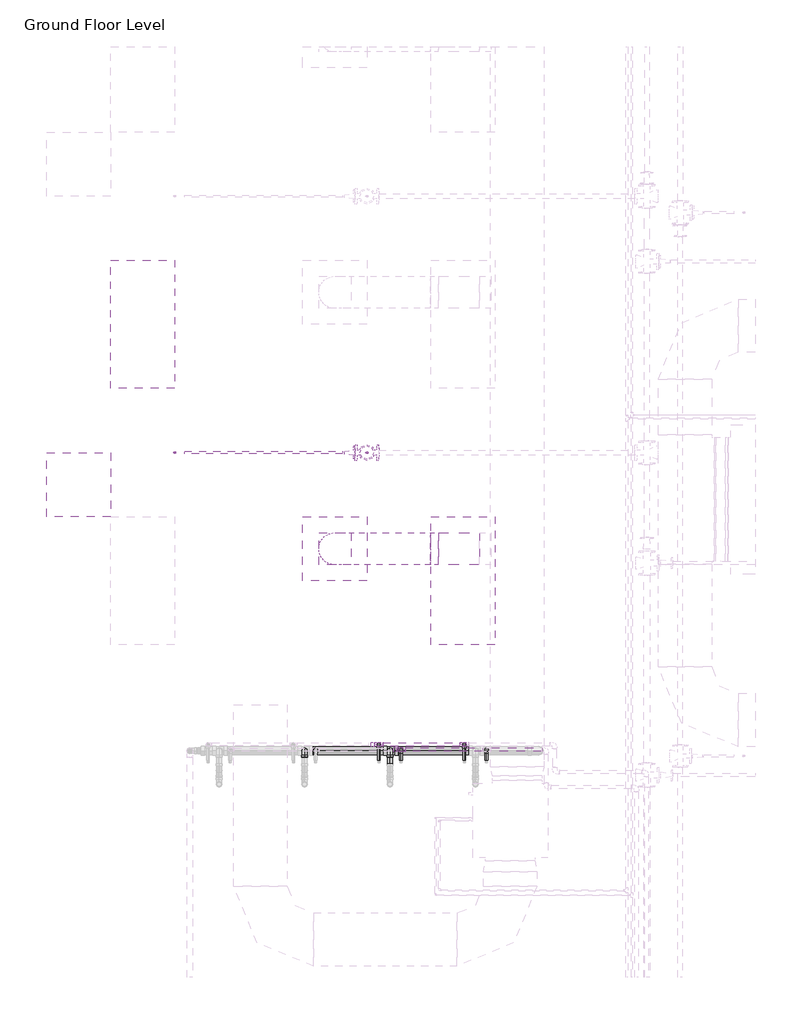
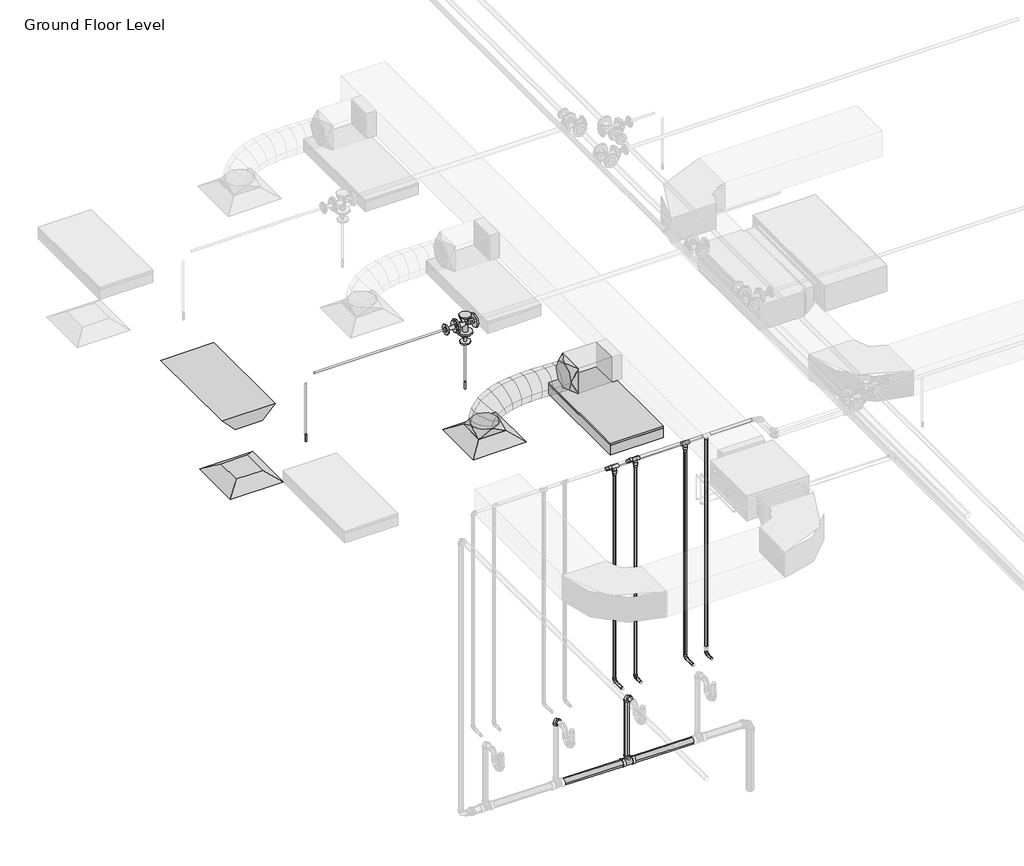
# One storey, part 24 of 74: 18 pipe fittings, 18 pipe segments, 2 air terminals, 2 duct fittings, 2 duct segments, 2 fire suppression terminals, 2 light fixtures.
"""IFC4 building model written with IfcOpenShell, lengths in millimetres."""

from ifc_helpers import new_model, si_unit, point, frame, frame_2d, origin, place, context, project, spatial, polyline, circle_curve, ellipse_curve, trimmed, segment, composite_curve, outline, extrude, transform, mapped, element, save
from ifc_brep_helpers import plane_surface, cylinder_surface, advanced_brep
from components import m_return_diffuser_600_x_600_face_300_x_300_connection_ff221211, m_rectangular_to_round_transition_angle_45_degree_641efff0, m_sprinkler_dry_pendent_hosted_15_mm_dry_pendent_9bda8e11, m_emergency_recessed_lighting_fixture_600x1200_277_5b10b25d, m_troffer_light_parabolic_rectangular1_0600x1200mm_4_lamp_86473d4a, m_bend_pvc_sch_40_dwv_standard_1e7bdcc1, m_bend_pvc_sch_40_dwv_standard_b3f66ba9, m_reducer_flanged_cs_class_150_standard_dc68ad9d, m_tee_reducing_sanitary_pvc_sch_40_dwv_standard_21d2848c, m_tee_round_base_flanged_cs_class_150_standard_ab36f383, standard_b266ab3f, standard_72b35c3b, standard_e954f56a, standard_e5aa6446

model = new_model("IFC4")

# Units and contexts
model_context = context("Model", 3, world=origin())
ifc_project = project(units=[si_unit("LENGTHUNIT", "METRE", prefix="MILLI")], contexts=[model_context])

# Site, building, storey
site = spatial("IfcSite", under=ifc_project)
building = spatial("IfcBuilding", under=site)
storey = spatial("IfcBuildingStorey", under=building, Name="Ground Floor Level", Elevation=900.0)

# Air terminals
placement = place(None, origin())
m_return_diffuser_600_x_600_face_300_x_300_connection_shape = m_return_diffuser_600_x_600_face_300_x_300_connection_ff221211(model_context)
element("IfcAirTerminal", 1, ObjectType="M_Return Diffuser : 600 x 600 Face 300 x 300 Connection", at=placement, inside=storey, context=model_context, shape_type="MappedRepresentation", body=[
    mapped(m_return_diffuser_600_x_600_face_300_x_300_connection_shape, transform((362.7672395, -21364.7846466, 3650.0), x_axis=(1.0, 0.0, 0.0), y_axis=(0.0, 1.0, 0.0), z_axis=(0.0, 0.0, 1.0))),
])
element("IfcAirTerminal", 2, ObjectType="M_Supply Diffuser : 600 x 600 Face 300 x 300 Connection", at=placement, inside=storey, context=model_context, shape_type="MappedRepresentation", body=[
    mapped(m_return_diffuser_600_x_600_face_300_x_300_connection_shape, transform((2762.7672395, -21964.7846466, 3650.0), x_axis=(1.0, 0.0, 0.0), y_axis=(0.0, 1.0, 0.0), z_axis=(0.0, 0.0, 1.0))),
])

# Duct fittings
m_rectangular_to_round_transition_angle_45_degree_shape = m_rectangular_to_round_transition_angle_45_degree_641efff0(model_context)
element("IfcDuctFitting", 3, ObjectType="M_Rectangular to Round Transition - Angle : 45 Degree", at=placement, inside=storey, context=model_context, shape_type="MappedRepresentation", body=[
    mapped(m_rectangular_to_round_transition_angle_45_degree_shape, transform((2762.7672395, -21964.7846466, 3751.6), x_axis=(0.0, 0.0, 1.0), y_axis=(-1.0, 0.0, 0.0), z_axis=(0.0, -1.0, 0.0))),
])
element("IfcDuctFitting", 4, ObjectType="M_Rectangular to Round Transition - Angle : 45 Degree", at=placement, inside=storey, context=model_context, shape_type="MappedRepresentation", body=[
    mapped(m_rectangular_to_round_transition_angle_45_degree_shape, transform((3732.9512129, -21964.7846466, 4057.1519579), x_axis=(-1.0, 0.0, 0.0), y_axis=(0.0, -1.0, 0.0), z_axis=(0.0, 0.0, 1.0))),
])

# Duct segments
element("IfcDuctSegment", 5, ObjectType="Flex - Round", at=placement, inside=storey, context=model_context, shape_type="AdvancedBrep", body=[
    advanced_brep(
    [(2912.7672395, -21964.7846466, 3826.6), (2762.7672395, -22114.7846466, 3826.6), (2612.7672395, -21964.7846466, 3826.6), (2762.7672395, -21814.7846466, 3826.6), (2912.7672395, -21964.7846466, 3832.8904143), (2762.7672395, -22114.7846466, 3856.8494149), (2612.7672395, -21964.7846466, 3880.8084155), (2762.7672395, -21814.7846466, 3856.8494149), (2914.0859082, -21964.7846466, 3836.9129923), (2779.5128239, -22114.7846466, 3907.9315565), (2644.9397396, -21964.7846466, 3978.9501208), (2779.5128239, -21814.7846466, 3907.9315565), (2928.1338147, -21964.7846466, 3855.2244817), (2826.2856906, -22114.7846466, 3968.9001322), (2724.4375665, -21964.7846466, 4082.5757828), (2826.2856906, -21814.7846466, 3968.9001322), (2960.075367, -21964.7846466, 3874.5779986), (2897.8900097, -22114.7846466, 4012.2854816), (2835.7046525, -21964.7846466, 4149.9929645), (2897.8900097, -21814.7846466, 4012.2854816), (3023.3471395, -21964.7846466, 3894.3985509), (2989.1299517, -22114.7846466, 4040.8673589), (2954.9127638, -21964.7846466, 4187.3361668), (2989.1299517, -21814.7846466, 4040.8673589), (3111.2174774, -21964.7846466, 3908.1662907), (3094.8096865, -22114.7846466, 4057.4255186), (3078.4018957, -21964.7846466, 4206.6847465), (3094.8096865, -21814.7846466, 4057.4255186), (3215.0370803, -21964.7846466, 3914.773779), (3209.7333846, -22114.7846466, 4064.7397152), (3204.4296888, -21964.7846466, 4214.7056514), (3209.7333846, -21814.7846466, 4064.7397152), (3327.4369923, -21964.7846466, 3915.576814), (3328.705216, -22114.7846466, 4065.589703), (3329.9734397, -21964.7846466, 4215.6025919), (3328.705216, -21814.7846466, 4065.589703), (3442.2113611, -21964.7846466, 3912.815715), (3446.529351, -22114.7846466, 4062.7552364), (3450.847341, -21964.7846466, 4212.6947579), (3446.529351, -21814.7846466, 4062.7552364), (3554.0566752, -21964.7846466, 3909.0643159), (3558.0099599, -22114.7846466, 4059.0160699), (3561.9632447, -21964.7846466, 4208.9678239), (3558.0099599, -21814.7846466, 4059.0160699), (3657.9512129, -21964.7846466, 3907.1519579), (3657.9512129, -21814.7846466, 4057.1519579), (3657.9512129, -21964.7846466, 4207.1519579), (3657.9512129, -22114.7846466, 4057.1519579), (3653.7148319, -21964.7846466, 3907.1519579), (3655.1538878, -22114.7846466, 4057.1519579), (3656.5929436, -21964.7846466, 4207.1519579), (3655.1538878, -21814.7846466, 4057.1519579)],
    [
        (0, 1, circle_curve(frame((2762.7672395, -21964.7846466, 3826.6), z_axis=(0.0, 0.0, -1.0), x_axis=(1.0, 0.0, 0.0)), 150.0)),
        (1, 2, circle_curve(frame((2762.7672395, -21964.7846466, 3826.6), z_axis=(0.0, 0.0, -1.0), x_axis=(1.0, 0.0, 0.0)), 150.0)),
        (2, 3, circle_curve(frame((2762.7672395, -21964.7846466, 3826.6), z_axis=(0.0, 0.0, -1.0), x_axis=(1.0, 0.0, 0.0)), 150.0)),
        (3, 0, circle_curve(frame((2762.7672395, -21964.7846466, 3826.6), z_axis=(0.0, 0.0, -1.0), x_axis=(1.0, 0.0, 0.0)), 150.0)),
        (0, 4),
        (4, 5, ellipse_curve(frame((2762.7672395, -21964.7846466, 3856.8494149), z_axis=(-0.1577273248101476, 0.0, -0.9874827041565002), x_axis=(0.9874827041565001, 0.0, -0.1577273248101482)), 151.9013947, 150.0)),
        (5, 1),
        (5, 6, ellipse_curve(frame((2762.7672395, -21964.7846466, 3856.8494149), z_axis=(-0.1577273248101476, 0.0, -0.9874827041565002), x_axis=(0.9874827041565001, 0.0, -0.1577273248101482)), 151.9013947, 150.0)),
        (6, 2),
        (6, 7, ellipse_curve(frame((2762.7672395, -21964.7846466, 3856.8494149), z_axis=(-0.1577273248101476, 0.0, -0.9874827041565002), x_axis=(0.9874827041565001, 0.0, -0.1577273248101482)), 151.9013947, 150.0)),
        (7, 3),
        (7, 4, ellipse_curve(frame((2762.7672395, -21964.7846466, 3856.8494149), z_axis=(-0.1577273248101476, 0.0, -0.9874827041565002), x_axis=(0.9874827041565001, 0.0, -0.1577273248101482)), 151.9013947, 150.0)),
        (4, 8),
        (8, 9, ellipse_curve(frame((2779.5128239, -21964.7846466, 3907.9315565), z_axis=(-0.46672716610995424, 0.0, -0.8844013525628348), x_axis=(0.8844013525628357, 0.0, -0.466727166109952)), 152.162911, 150.0)),
        (9, 5),
        (9, 10, ellipse_curve(frame((2779.5128239, -21964.7846466, 3907.9315565), z_axis=(-0.46672716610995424, 0.0, -0.8844013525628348), x_axis=(0.8844013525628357, 0.0, -0.466727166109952)), 152.162911, 150.0)),
        (10, 6),
        (10, 11, ellipse_curve(frame((2779.5128239, -21964.7846466, 3907.9315565), z_axis=(-0.46672716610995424, 0.0, -0.8844013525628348), x_axis=(0.8844013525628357, 0.0, -0.466727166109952)), 152.162911, 150.0)),
        (11, 7),
        (11, 8, ellipse_curve(frame((2779.5128239, -21964.7846466, 3907.9315565), z_axis=(-0.46672716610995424, 0.0, -0.8844013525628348), x_axis=(0.8844013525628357, 0.0, -0.466727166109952)), 152.162911, 150.0)),
        (8, 12),
        (12, 13, ellipse_curve(frame((2826.2856906, -21964.7846466, 3968.9001322), z_axis=(-0.744790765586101, 0.0, -0.6672980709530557), x_axis=(0.6672980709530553, 0.0, -0.7447907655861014)), 152.6276316, 150.0)),
        (13, 9),
        (13, 14, ellipse_curve(frame((2826.2856906, -21964.7846466, 3968.9001322), z_axis=(-0.744790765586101, 0.0, -0.6672980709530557), x_axis=(0.6672980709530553, 0.0, -0.7447907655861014)), 152.6276316, 150.0)),
        (14, 10),
        (14, 15, ellipse_curve(frame((2826.2856906, -21964.7846466, 3968.9001322), z_axis=(-0.744790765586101, 0.0, -0.6672980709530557), x_axis=(0.6672980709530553, 0.0, -0.7447907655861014)), 152.6276316, 150.0)),
        (15, 11),
        (15, 12, ellipse_curve(frame((2826.2856906, -21964.7846466, 3968.9001322), z_axis=(-0.744790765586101, 0.0, -0.6672980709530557), x_axis=(0.6672980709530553, 0.0, -0.7447907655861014)), 152.6276316, 150.0)),
        (12, 16),
        (16, 17, ellipse_curve(frame((2897.8900097, -21964.7846466, 4012.2854816), z_axis=(-0.9113833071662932, 0.0, -0.41155858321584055), x_axis=(0.41155858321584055, 0.0, -0.9113833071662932)), 151.0972187, 150.0)),
        (17, 13),
        (17, 18, ellipse_curve(frame((2897.8900097, -21964.7846466, 4012.2854816), z_axis=(-0.9113833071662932, 0.0, -0.41155858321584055), x_axis=(0.41155858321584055, 0.0, -0.9113833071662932)), 151.0972187, 150.0)),
        (18, 14),
        (18, 19, ellipse_curve(frame((2897.8900097, -21964.7846466, 4012.2854816), z_axis=(-0.9113833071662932, 0.0, -0.41155858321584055), x_axis=(0.41155858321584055, 0.0, -0.9113833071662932)), 151.0972187, 150.0)),
        (19, 15),
        (19, 16, ellipse_curve(frame((2897.8900097, -21964.7846466, 4012.2854816), z_axis=(-0.9113833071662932, 0.0, -0.41155858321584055), x_axis=(0.41155858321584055, 0.0, -0.9113833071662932)), 151.0972187, 150.0)),
        (16, 20),
        (20, 21, ellipse_curve(frame((2989.1299517, -21964.7846466, 4040.8673589), z_axis=(-0.9737806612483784, 0.0, -0.22748895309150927), x_axis=(0.22748895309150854, 0.0, -0.9737806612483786)), 150.4125249, 150.0)),
        (21, 17),
        (21, 22, ellipse_curve(frame((2989.1299517, -21964.7846466, 4040.8673589), z_axis=(-0.9737806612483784, 0.0, -0.22748895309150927), x_axis=(0.22748895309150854, 0.0, -0.9737806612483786)), 150.4125249, 150.0)),
        (22, 18),
        (22, 23, ellipse_curve(frame((2989.1299517, -21964.7846466, 4040.8673589), z_axis=(-0.9737806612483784, 0.0, -0.22748895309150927), x_axis=(0.22748895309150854, 0.0, -0.9737806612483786)), 150.4125249, 150.0)),
        (23, 19),
        (23, 20, ellipse_curve(frame((2989.1299517, -21964.7846466, 4040.8673589), z_axis=(-0.9737806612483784, 0.0, -0.22748895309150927), x_axis=(0.22748895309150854, 0.0, -0.9737806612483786)), 150.4125249, 150.0)),
        (20, 24),
        (24, 25, ellipse_curve(frame((3094.8096865, -21964.7846466, 4057.4255186), z_axis=(-0.9940121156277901, 0.0, -0.109269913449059), x_axis=(0.10926991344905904, 0.0, -0.9940121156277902)), 150.1583588, 150.0)),
        (25, 21),
        (25, 26, ellipse_curve(frame((3094.8096865, -21964.7846466, 4057.4255186), z_axis=(-0.9940121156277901, 0.0, -0.109269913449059), x_axis=(0.10926991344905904, 0.0, -0.9940121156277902)), 150.1583588, 150.0)),
        (26, 22),
        (26, 27, ellipse_curve(frame((3094.8096865, -21964.7846466, 4057.4255186), z_axis=(-0.9940121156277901, 0.0, -0.109269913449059), x_axis=(0.10926991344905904, 0.0, -0.9940121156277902)), 150.1583588, 150.0)),
        (27, 23),
        (27, 24, ellipse_curve(frame((3094.8096865, -21964.7846466, 4057.4255186), z_axis=(-0.9940121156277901, 0.0, -0.109269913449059), x_axis=(0.10926991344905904, 0.0, -0.9940121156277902)), 150.1583588, 150.0)),
        (24, 28),
        (28, 29, ellipse_curve(frame((3209.7333846, -21964.7846466, 4064.7397152), z_axis=(-0.9993752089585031, 0.0, -0.035343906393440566), x_axis=(0.035343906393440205, 0.0, -0.9993752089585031)), 150.0596922, 150.0)),
        (29, 25),
        (29, 30, ellipse_curve(frame((3209.7333846, -21964.7846466, 4064.7397152), z_axis=(-0.9993752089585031, 0.0, -0.035343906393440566), x_axis=(0.035343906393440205, 0.0, -0.9993752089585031)), 150.0596922, 150.0)),
        (30, 26),
        (30, 31, ellipse_curve(frame((3209.7333846, -21964.7846466, 4064.7397152), z_axis=(-0.9993752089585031, 0.0, -0.035343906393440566), x_axis=(0.035343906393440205, 0.0, -0.9993752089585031)), 150.0596922, 150.0)),
        (31, 27),
        (31, 28, ellipse_curve(frame((3209.7333846, -21964.7846466, 4064.7397152), z_axis=(-0.9993752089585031, 0.0, -0.035343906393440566), x_axis=(0.035343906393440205, 0.0, -0.9993752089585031)), 150.0596922, 150.0)),
        (28, 32),
        (32, 33, ellipse_curve(frame((3328.705216, -21964.7846466, 4065.589703), z_axis=(-0.9999642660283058, 0.0, 0.008453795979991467), x_axis=(-0.00845379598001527, 0.0, -0.9999642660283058)), 150.0182497, 150.0)),
        (33, 29),
        (33, 34, ellipse_curve(frame((3328.705216, -21964.7846466, 4065.589703), z_axis=(-0.9999642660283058, 0.0, 0.008453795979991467), x_axis=(-0.00845379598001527, 0.0, -0.9999642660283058)), 150.0182497, 150.0)),
        (34, 30),
        (34, 35, ellipse_curve(frame((3328.705216, -21964.7846466, 4065.589703), z_axis=(-0.9999642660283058, 0.0, 0.008453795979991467), x_axis=(-0.00845379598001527, 0.0, -0.9999642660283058)), 150.0182497, 150.0)),
        (35, 31),
        (35, 32, ellipse_curve(frame((3328.705216, -21964.7846466, 4065.589703), z_axis=(-0.9999642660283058, 0.0, 0.008453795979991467), x_axis=(-0.00845379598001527, 0.0, -0.9999642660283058)), 150.0182497, 150.0)),
        (32, 36),
        (36, 37, ellipse_curve(frame((3446.529351, -21964.7846466, 4062.7552364), z_axis=(-0.9995855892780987, 0.0, 0.028786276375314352), x_axis=(-0.028786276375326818, 0.0, -0.9995855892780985)), 150.0016838, 150.0)),
        (37, 33),
        (37, 38, ellipse_curve(frame((3446.529351, -21964.7846466, 4062.7552364), z_axis=(-0.9995855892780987, 0.0, 0.028786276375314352), x_axis=(-0.028786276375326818, 0.0, -0.9995855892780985)), 150.0016838, 150.0)),
        (38, 34),
        (38, 39, ellipse_curve(frame((3446.529351, -21964.7846466, 4062.7552364), z_axis=(-0.9995855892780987, 0.0, 0.028786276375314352), x_axis=(-0.028786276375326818, 0.0, -0.9995855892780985)), 150.0016838, 150.0)),
        (39, 35),
        (39, 36, ellipse_curve(frame((3446.529351, -21964.7846466, 4062.7552364), z_axis=(-0.9995855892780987, 0.0, 0.028786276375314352), x_axis=(-0.028786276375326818, 0.0, -0.9995855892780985)), 150.0016838, 150.0)),
        (36, 40),
        (40, 41, ellipse_curve(frame((3558.0099599, -21964.7846466, 4059.0160699), z_axis=(-0.999652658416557, 0.0, 0.026354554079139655), x_axis=(0.026354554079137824, 0.0, 0.9996526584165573)), 150.0038566, 150.0)),
        (41, 37),
        (41, 42, ellipse_curve(frame((3558.0099599, -21964.7846466, 4059.0160699), z_axis=(-0.999652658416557, 0.0, 0.026354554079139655), x_axis=(0.026354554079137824, 0.0, 0.9996526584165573)), 150.0038566, 150.0)),
        (42, 38),
        (42, 43, ellipse_curve(frame((3558.0099599, -21964.7846466, 4059.0160699), z_axis=(-0.999652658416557, 0.0, 0.026354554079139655), x_axis=(0.026354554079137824, 0.0, 0.9996526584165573)), 150.0038566, 150.0)),
        (43, 39),
        (43, 40, ellipse_curve(frame((3558.0099599, -21964.7846466, 4059.0160699), z_axis=(-0.999652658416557, 0.0, 0.026354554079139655), x_axis=(0.026354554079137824, 0.0, 0.9996526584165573)), 150.0038566, 150.0)),
        (44, 45, circle_curve(frame((3657.9512129, -21964.7846466, 4057.1519579), z_axis=(1.0, 0.0, 0.0), x_axis=(0.0, 0.0, -1.0)), 150.0)),
        (45, 46, circle_curve(frame((3657.9512129, -21964.7846466, 4057.1519579), z_axis=(1.0, 0.0, 0.0), x_axis=(0.0, 0.0, -1.0)), 150.0)),
        (46, 47, circle_curve(frame((3657.9512129, -21964.7846466, 4057.1519579), z_axis=(1.0, 0.0, 0.0), x_axis=(0.0, 0.0, -1.0)), 150.0)),
        (47, 44, circle_curve(frame((3657.9512129, -21964.7846466, 4057.1519579), z_axis=(1.0, 0.0, 0.0), x_axis=(0.0, 0.0, -1.0)), 150.0)),
        (40, 48),
        (48, 49, ellipse_curve(frame((3655.1538878, -21964.7846466, 4057.1519579), z_axis=(-0.9999539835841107, 0.0, 0.009593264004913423), x_axis=(0.009593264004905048, 0.0, 0.9999539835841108)), 150.0069028, 150.0)),
        (49, 41),
        (49, 50, ellipse_curve(frame((3655.1538878, -21964.7846466, 4057.1519579), z_axis=(-0.9999539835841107, 0.0, 0.009593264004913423), x_axis=(0.009593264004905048, 0.0, 0.9999539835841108)), 150.0069028, 150.0)),
        (50, 42),
        (50, 51, ellipse_curve(frame((3655.1538878, -21964.7846466, 4057.1519579), z_axis=(-0.9999539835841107, 0.0, 0.009593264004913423), x_axis=(0.009593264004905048, 0.0, 0.9999539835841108)), 150.0069028, 150.0)),
        (51, 43),
        (51, 48, ellipse_curve(frame((3655.1538878, -21964.7846466, 4057.1519579), z_axis=(-0.9999539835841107, 0.0, 0.009593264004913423), x_axis=(0.009593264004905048, 0.0, 0.9999539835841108)), 150.0069028, 150.0)),
        (48, 44),
        (47, 49),
        (46, 50),
        (45, 51),
    ],
    [
        plane_surface(frame((2762.7672395, -22114.7846466, 3826.6), z_axis=(0.0, 0.0, -1.0), x_axis=(1.0, 0.0, 0.0))),
        cylinder_surface(frame((2762.7672395, -21964.7846466, 3826.6), z_axis=(0.0, 0.0, -1.0), x_axis=(1.0, 0.0, 0.0)), 150.0),
        cylinder_surface(frame((2762.7672395, -21964.7846466, 3856.8494149), z_axis=(-0.3115060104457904, 0.0, -0.9502441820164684), x_axis=(0.9502441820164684, 0.0, -0.3115060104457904)), 150.0),
        cylinder_surface(frame((2779.5128239, -21964.7846466, 3907.9315565), z_axis=(-0.6086797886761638, 0.0, -0.7934159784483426), x_axis=(0.7934159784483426, 0.0, -0.6086797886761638)), 150.0),
        cylinder_surface(frame((2826.2856906, -21964.7846466, 3968.9001322), z_axis=(-0.8552571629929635, 0.0, -0.5182038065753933), x_axis=(0.5182038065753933, 0.0, -0.8552571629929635)), 150.0),
        cylinder_surface(frame((2897.8900097, -21964.7846466, 4012.2854816), z_axis=(-0.9542731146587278, 0.0, -0.29893615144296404), x_axis=(0.29893615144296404, 0.0, -0.9542731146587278)), 150.0),
        cylinder_surface(frame((2989.1299517, -21964.7846466, 4040.8673589), z_axis=(-0.9879467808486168, 0.0, -0.15479392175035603), x_axis=(0.15479392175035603, 0.0, -0.9879467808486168)), 150.0),
        cylinder_surface(frame((3094.8096865, -21964.7846466, 4057.4255186), z_axis=(-0.997980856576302, 0.0, -0.06351543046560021), x_axis=(0.06351543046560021, 0.0, -0.997980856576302)), 150.0),
        cylinder_surface(frame((3209.7333846, -21964.7846466, 4064.7397152), z_axis=(-0.9999744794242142, 0.0, -0.007144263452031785), x_axis=(0.007144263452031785, 0.0, -0.9999744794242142)), 150.0),
        cylinder_surface(frame((3328.705216, -21964.7846466, 4065.589703), z_axis=(-0.9997107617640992, 0.0, 0.024049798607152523), x_axis=(-0.024049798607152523, 0.0, -0.9997107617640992)), 150.0),
        cylinder_surface(frame((3446.529351, -21964.7846466, 4062.7552364), z_axis=(-0.9994379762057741, 0.0, 0.03352210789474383), x_axis=(-0.03352210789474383, 0.0, -0.9994379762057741)), 150.0),
        plane_surface(frame((3657.9512129, -21964.7846466, 3907.1519579), z_axis=(1.0, 0.0, 0.0), x_axis=(0.0, 1.0, 0.0))),
        cylinder_surface(frame((3558.0099599, -21964.7846466, 4059.0160699), z_axis=(-0.9998159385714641, 0.0, 0.01918564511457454), x_axis=(-0.01918564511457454, 0.0, -0.9998159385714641)), 150.0),
        cylinder_surface(frame((3655.1538878, -21964.7846466, 4057.1519579), z_axis=(-1.0, 0.0, 0.0), x_axis=(0.0, 0.0, -1.0)), 150.0),
    ],
    [
        (0, [[1, 2, 3, 4]]),
        (1, [[-1, 5, 6, 7]]),
        (1, [[-2, -7, 8, 9]]),
        (1, [[-3, -9, 10, 11]]),
        (1, [[-4, -11, 12, -5]]),
        (2, [[-6, 13, 14, 15]]),
        (2, [[-8, -15, 16, 17]]),
        (2, [[-10, -17, 18, 19]]),
        (2, [[-12, -19, 20, -13]]),
        (3, [[-14, 21, 22, 23]]),
        (3, [[-16, -23, 24, 25]]),
        (3, [[-18, -25, 26, 27]]),
        (3, [[-20, -27, 28, -21]]),
        (4, [[-22, 29, 30, 31]]),
        (4, [[-24, -31, 32, 33]]),
        (4, [[-26, -33, 34, 35]]),
        (4, [[-28, -35, 36, -29]]),
        (5, [[-30, 37, 38, 39]]),
        (5, [[-32, -39, 40, 41]]),
        (5, [[-34, -41, 42, 43]]),
        (5, [[-36, -43, 44, -37]]),
        (6, [[-38, 45, 46, 47]]),
        (6, [[-40, -47, 48, 49]]),
        (6, [[-42, -49, 50, 51]]),
        (6, [[-44, -51, 52, -45]]),
        (7, [[-46, 53, 54, 55]]),
        (7, [[-48, -55, 56, 57]]),
        (7, [[-50, -57, 58, 59]]),
        (7, [[-52, -59, 60, -53]]),
        (8, [[-54, 61, 62, 63]]),
        (8, [[-56, -63, 64, 65]]),
        (8, [[-58, -65, 66, 67]]),
        (8, [[-60, -67, 68, -61]]),
        (9, [[-62, 69, 70, 71]]),
        (9, [[-64, -71, 72, 73]]),
        (9, [[-66, -73, 74, 75]]),
        (9, [[-68, -75, 76, -69]]),
        (10, [[-70, 77, 78, 79]]),
        (10, [[-72, -79, 80, 81]]),
        (10, [[-74, -81, 82, 83]]),
        (10, [[-76, -83, 84, -77]]),
        (11, [[85, 86, 87, 88]]),
        (12, [[-78, 89, 90, 91]]),
        (12, [[-80, -91, 92, 93]]),
        (12, [[-82, -93, 94, 95]]),
        (12, [[-84, -95, 96, -89]]),
        (13, [[-90, 97, -88, 98]]),
        (13, [[-92, -98, -87, 99]]),
        (13, [[-94, -99, -86, 100]]),
        (13, [[-96, -100, -85, -97]]),
    ],
),
])
element("IfcDuctSegment", 6, ObjectType="Radius Elbows / Taps", at=placement, inside=storey, context=model_context, shape_type="SweptSolid", body=[
    extrude(outline(polyline([(4117.5581832, -21814.7846466), (4117.5581832, -22114.7846466), (3732.9512129, -22114.7846466), (3732.9512129, -21814.7846466), (4117.5581832, -21814.7846466)])), frame((0.0, 0.0, 3907.1519579), z_axis=(0.0, 0.0, 1.0), x_axis=(1.0, 0.0, 0.0)), (0.0, 0.0, 1.0), 300.0),
])

# Fire suppression terminals
m_sprinkler_dry_pendent_hosted_15_mm_dry_pendent_shape = m_sprinkler_dry_pendent_hosted_15_mm_dry_pendent_9bda8e11(model_context)
element("IfcFireSuppressionTerminal", 7, ObjectType="M_Sprinkler - Dry - Pendent - Hosted : 15 mm Dry Pendent", at=placement, inside=storey, context=model_context, shape_type="MappedRepresentation", body=[
    mapped(m_sprinkler_dry_pendent_hosted_15_mm_dry_pendent_shape, transform((1262.7672395, -21064.7846466, 3650.0), x_axis=(1.0, 0.0, 0.0), y_axis=(0.0, -1.0, 0.0), z_axis=(0.0, 0.0, -1.0))),
])
element("IfcFireSuppressionTerminal", 8, ObjectType="M_Sprinkler - Dry - Pendent - Hosted : 15 mm Dry Pendent", at=placement, inside=storey, context=model_context, shape_type="MappedRepresentation", body=[
    mapped(m_sprinkler_dry_pendent_hosted_15_mm_dry_pendent_shape, transform((3062.7672395, -21064.7846466, 3650.0), x_axis=(1.0, 0.0, 0.0), y_axis=(0.0, -1.0, 0.0), z_axis=(0.0, 0.0, -1.0))),
])

# Light fixtures
m_emergency_recessed_lighting_fixture_600x1200_277_shape = m_emergency_recessed_lighting_fixture_600x1200_277_5b10b25d(model_context)
element("IfcLightFixture", 9, ObjectType="M_Emergency Recessed Lighting Fixture : 600x1200 - 277", at=placement, inside=storey, context=model_context, shape_type="MappedRepresentation", body=[
    mapped(m_emergency_recessed_lighting_fixture_600x1200_277_shape, transform((662.7672395, -20464.7846466, 3650.0), x_axis=(0.0, 1.0, 0.0), y_axis=(-1.0, 0.0, 0.0), z_axis=(0.0, 0.0, 1.0))),
])
m_troffer_light_parabolic_rectangular1_0600x1200mm_4_lamp_shape = m_troffer_light_parabolic_rectangular1_0600x1200mm_4_lamp_86473d4a(model_context)
element("IfcLightFixture", 10, ObjectType="M_Troffer Light - Parabolic Rectangular1 : 0600x1200mm(4 Lamp) - 277V 2", at=placement, inside=storey, context=model_context, shape_type="MappedRepresentation", body=[
    mapped(m_troffer_light_parabolic_rectangular1_0600x1200mm_4_lamp_shape, transform((3903.3013074, -22246.081145, 3650.0), x_axis=(0.0, 1.0, 0.0), y_axis=(-1.0, 0.0, 0.0), z_axis=(0.0, 0.0, 1.0))),
])

# Pipe fittings
m_bend_pvc_sch_40_dwv_standard_shape = m_bend_pvc_sch_40_dwv_standard_1e7bdcc1(model_context)
element("IfcPipeFitting", 11, ObjectType="M_Bend - PVC - Sch 40 - DWV : Standard", at=placement, inside=storey, context=model_context, shape_type="MappedRepresentation", body=[
    mapped(m_bend_pvc_sch_40_dwv_standard_shape, transform((2478.7498, -23854.2948449, 1508.2594199), x_axis=(0.0, 0.9999500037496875, -0.00999950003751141), y_axis=(0.0, -0.00999950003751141, -0.9999500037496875), z_axis=(-1.0, 0.0, 0.0))),
])
m_bend_pvc_sch_40_dwv_standard_2_shape = m_bend_pvc_sch_40_dwv_standard_b3f66ba9(model_context)
element("IfcPipeFitting", 12, ObjectType="M_Bend - PVC - Sch 40 - DWV : Standard", at=placement, inside=storey, context=model_context, shape_type="MappedRepresentation", body=[
    mapped(m_bend_pvc_sch_40_dwv_standard_2_shape, transform((3278.7498, -23854.294392, 1508.3087469), x_axis=(0.0, 0.9999578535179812, -0.009181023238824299), y_axis=(0.0, -0.009181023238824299, -0.9999578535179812), z_axis=(-1.0, 0.0, 0.0))),
])
m_reducer_flanged_cs_class_150_standard_shape = m_reducer_flanged_cs_class_150_standard_dc68ad9d(model_context)
element("IfcPipeFitting", 13, ObjectType="M_Reducer - Flanged - CS - Class 150 : Standard", at=placement, inside=storey, context=model_context, shape_type="MappedRepresentation", body=[
    mapped(m_reducer_flanged_cs_class_150_standard_shape, transform((2950.5086457, -21064.7846466, 4347.5), x_axis=(-1.0, 0.0, 0.0), y_axis=(0.0, 0.0, 1.0), z_axis=(0.0, 1.0, 0.0))),
])
element("IfcPipeFitting", 14, ObjectType="M_Reducer - Flanged - CS - Class 150 : Standard", at=placement, inside=storey, context=model_context, shape_type="MappedRepresentation", body=[
    mapped(m_reducer_flanged_cs_class_150_standard_shape, transform((3062.7672395, -21064.7846466, 4235.2414062), x_axis=(0.0, 0.0, -1.0), y_axis=(-1.0, 0.0, 0.0), z_axis=(0.0, 1.0, 0.0))),
])
m_tee_reducing_sanitary_pvc_sch_40_dwv_standard_shape = m_tee_reducing_sanitary_pvc_sch_40_dwv_standard_21d2848c(model_context)
element("IfcPipeFitting", 15, ObjectType="M_Tee Reducing Sanitary - PVC - Sch 40 - DWV : Standard", at=placement, inside=storey, context=model_context, shape_type="MappedRepresentation", body=[
    mapped(m_tee_reducing_sanitary_pvc_sch_40_dwv_standard_shape, transform((3278.7498, -23854.294392, 721.0632162), x_axis=(-0.9999500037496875, 0.0, 0.009999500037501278), y_axis=(-0.009999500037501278, 0.0, -0.9999500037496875), z_axis=(0.0, -1.0, 0.0))),
])
m_tee_round_base_flanged_cs_class_150_standard_shape = m_tee_round_base_flanged_cs_class_150_standard_ab36f383(model_context)
element("IfcPipeFitting", 16, ObjectType="M_Tee Round Base - Flanged - CS - Class 150 : Standard", at=placement, inside=storey, context=model_context, shape_type="MappedRepresentation", body=[
    mapped(m_tee_round_base_flanged_cs_class_150_standard_shape, transform((3062.7672395, -21064.7846466, 4347.5), x_axis=(-1.0, 0.0, 0.0), y_axis=(0.0, 0.0, 1.0), z_axis=(0.0, 1.0, 0.0))),
])
standard_shape = standard_b266ab3f(model_context)
element("IfcPipeFitting", 17, ObjectType="M_Elbow - CPVC - Sch 40 : Standard", at=placement, inside=storey, context=model_context, shape_type="MappedRepresentation", body=[
    mapped(standard_shape, transform((4183.0647206, -23844.7846466, 1690.0), x_axis=(0.0, 1.0, 0.0), y_axis=(0.0, 0.0, 1.0), z_axis=(1.0, 0.0, 0.0))),
])
element("IfcPipeFitting", 18, ObjectType="M_Elbow - CPVC - Sch 40 : Standard", at=placement, inside=storey, context=model_context, shape_type="MappedRepresentation", body=[
    mapped(standard_shape, transform((3383.0647206, -23844.7846466, 1690.0), x_axis=(0.0, 0.0, -1.0), y_axis=(0.0, -1.0, 0.0), z_axis=(-1.0, 0.0, 0.0))),
])
element("IfcPipeFitting", 19, ObjectType="M_Elbow - CPVC - Sch 40 : Standard", at=placement, inside=storey, context=model_context, shape_type="MappedRepresentation", body=[
    mapped(standard_shape, transform((3174.4348794, -23794.921633, 1690.0), x_axis=(0.0, 1.0, 0.0), y_axis=(0.0, 0.0, 1.0), z_axis=(1.0, 0.0, 0.0))),
])
element("IfcPipeFitting", 20, ObjectType="M_Elbow - CPVC - Sch 40 : Standard", at=placement, inside=storey, context=model_context, shape_type="MappedRepresentation", body=[
    mapped(standard_shape, transform((3974.4348794, -23794.921633, 1690.0), x_axis=(0.0, 1.0, 0.0), y_axis=(0.0, 0.0, 1.0), z_axis=(1.0, 0.0, 0.0))),
])
standard_2_shape = standard_72b35c3b(model_context)
element("IfcPipeFitting", 21, ObjectType="M_Tee - CPVC - Sch 40 : Standard", at=placement, inside=storey, context=model_context, shape_type="MappedRepresentation", body=[
    mapped(standard_2_shape, transform((3383.0647206, -23844.7846466, 4300.0), x_axis=(1.0, 0.0, 0.0), y_axis=(0.0, 0.0, 1.0), z_axis=(0.0, -1.0, 0.0))),
])
element("IfcPipeFitting", 22, ObjectType="M_Tee - CPVC - Sch 40 : Standard", at=placement, inside=storey, context=model_context, shape_type="MappedRepresentation", body=[
    mapped(standard_2_shape, transform((3174.4348794, -23794.921633, 4250.0), x_axis=(-1.0, 0.0, 0.0), y_axis=(0.0, 0.0, 1.0), z_axis=(0.0, 1.0, 0.0))),
])
element("IfcPipeFitting", 23, ObjectType="M_Tee - CPVC - Sch 40 : Standard", at=placement, inside=storey, context=model_context, shape_type="MappedRepresentation", body=[
    mapped(standard_2_shape, transform((3974.4348794, -23794.921633, 4250.0), x_axis=(-1.0, 0.0, 0.0), y_axis=(0.0, 0.0, 1.0), z_axis=(0.0, 1.0, 0.0))),
])
standard_3_shape = standard_e954f56a(model_context)
element("IfcPipeFitting", 24, ObjectType="M_Coupling Reducing - CPVC - Sch 40 : Standard", at=placement, inside=storey, context=model_context, shape_type="MappedRepresentation", body=[
    mapped(standard_3_shape, transform((3343.3645206, -23844.7846466, 4300.0), x_axis=(-1.0, 0.0, 0.0), y_axis=(0.0, -1.0, 0.0), z_axis=(0.0, 0.0, 1.0))),
])
element("IfcPipeFitting", 25, ObjectType="M_Coupling Reducing - CPVC - Sch 40 : Standard", at=placement, inside=storey, context=model_context, shape_type="MappedRepresentation", body=[
    mapped(standard_3_shape, transform((3383.0647206, -23844.7846466, 4260.2998), x_axis=(0.0, 0.0, -1.0), y_axis=(1.0, 0.0, 0.0), z_axis=(0.0, -1.0, 0.0))),
])
element("IfcPipeFitting", 26, ObjectType="M_Coupling Reducing - CPVC - Sch 40 : Standard", at=placement, inside=storey, context=model_context, shape_type="MappedRepresentation", body=[
    mapped(standard_3_shape, transform((3174.4348794, -23794.921633, 4210.2998), x_axis=(0.0, 0.0, -1.0), y_axis=(-1.0, 0.0, 0.0), z_axis=(0.0, 1.0, 0.0))),
])
element("IfcPipeFitting", 27, ObjectType="M_Coupling Reducing - CPVC - Sch 40 : Standard", at=placement, inside=storey, context=model_context, shape_type="MappedRepresentation", body=[
    mapped(standard_3_shape, transform((3974.4348794, -23794.921633, 4210.2998), x_axis=(0.0, 0.0, -1.0), y_axis=(-1.0, 0.0, 0.0), z_axis=(0.0, 1.0, 0.0))),
])
standard_4_shape = standard_e5aa6446(model_context)
element("IfcPipeFitting", 28, ObjectType="M_Coupling Reducing - CPVC - Sch 40 : Standard", at=placement, inside=storey, context=model_context, shape_type="MappedRepresentation", body=[
    mapped(standard_4_shape, transform((3134.7346794, -23794.921633, 4250.0), x_axis=(-1.0, 0.0, 0.0), y_axis=(0.0, -1.0, 0.0), z_axis=(0.0, 0.0, 1.0))),
])

# Pipe segments
element("IfcPipeSegment", 29, ObjectType="CPVC", at=placement, inside=storey, context=model_context, shape_type="SweptSolid", body=[
    extrude(outline(composite_curve([segment(trimmed(circle_curve(frame_2d((1690.0, 4183.0647206)), 13.335), [point((1690.0, 4196.3997206))], [point((1703.335, 4183.0647206))], False, "CARTESIAN"), True, "CONTINUOUS"), segment(trimmed(circle_curve(frame_2d((1690.0, 4183.0647206)), 13.335), [point((1703.335, 4183.0647206))], [point((1690.0, 4169.7297206))], False, "CARTESIAN"), True, "CONTINUOUS"), segment(trimmed(circle_curve(frame_2d((1690.0, 4183.0647206)), 13.335), [point((1690.0, 4169.7297206))], [point((1676.665, 4183.0647206))], False, "CARTESIAN"), True, "CONTINUOUS"), segment(trimmed(circle_curve(frame_2d((1690.0, 4183.0647206)), 13.335), [point((1676.665, 4183.0647206))], [point((1690.0, 4196.3997206))], False, "CARTESIAN"), True, "CONTINUOUS")], self_intersect=False)), frame((0.0, -23944.7846466, 0.0), z_axis=(0.0, 1.0, 0.0), x_axis=(0.0, 0.0, 1.0)), (0.0, 0.0, 1.0), 64.67495),
])
element("IfcPipeSegment", 30, ObjectType="CPVC", at=placement, inside=storey, context=model_context, shape_type="SweptSolid", body=[
    extrude(outline(composite_curve([segment(trimmed(circle_curve(frame_2d((-23844.7846466, 4300.0)), 16.7005), [point((-23861.4851466, 4300.0))], [point((-23844.7846466, 4316.7005))], False, "CARTESIAN"), True, "CONTINUOUS"), segment(trimmed(circle_curve(frame_2d((-23844.7846466, 4300.0)), 16.7005), [point((-23844.7846466, 4316.7005))], [point((-23828.0841466, 4300.0))], False, "CARTESIAN"), True, "CONTINUOUS"), segment(trimmed(circle_curve(frame_2d((-23844.7846466, 4300.0)), 16.7005), [point((-23828.0841466, 4300.0))], [point((-23844.7846466, 4283.2995))], False, "CARTESIAN"), True, "CONTINUOUS"), segment(trimmed(circle_curve(frame_2d((-23844.7846466, 4300.0)), 16.7005), [point((-23844.7846466, 4283.2995))], [point((-23861.4851466, 4300.0))], False, "CARTESIAN"), True, "CONTINUOUS")], self_intersect=False)), frame((4222.7649206, 0.0, 0.0), z_axis=(1.0, 0.0, 0.0), x_axis=(0.0, 1.0, 0.0)), (0.0, 0.0, 1.0), 477.03725),
])
element("IfcPipeSegment", 31, ObjectType="CPVC", at=placement, inside=storey, context=model_context, shape_type="SweptSolid", body=[
    extrude(outline(composite_curve([segment(trimmed(circle_curve(frame_2d((4183.0647206, -23844.7846466)), 16.7005), [point((4166.3642206, -23844.7846466))], [point((4183.0647206, -23828.0841466))], False, "CARTESIAN"), True, "CONTINUOUS"), segment(trimmed(circle_curve(frame_2d((4183.0647206, -23844.7846466)), 16.7005), [point((4183.0647206, -23828.0841466))], [point((4199.7652206, -23844.7846466))], False, "CARTESIAN"), True, "CONTINUOUS"), segment(trimmed(circle_curve(frame_2d((4183.0647206, -23844.7846466)), 16.7005), [point((4199.7652206, -23844.7846466))], [point((4183.0647206, -23861.4851466))], False, "CARTESIAN"), True, "CONTINUOUS"), segment(trimmed(circle_curve(frame_2d((4183.0647206, -23844.7846466)), 16.7005), [point((4183.0647206, -23861.4851466))], [point((4166.3642206, -23844.7846466))], False, "CARTESIAN"), True, "CONTINUOUS")], self_intersect=False)), frame((0.0, 0.0, 1782.47505), z_axis=(0.0, 0.0, 1.0), x_axis=(1.0, 0.0, 0.0)), (0.0, 0.0, 1.0), 2477.82475),
])
element("IfcPipeSegment", 32, ObjectType="CPVC", at=placement, inside=storey, context=model_context, shape_type="SweptSolid", body=[
    extrude(outline(composite_curve([segment(trimmed(circle_curve(frame_2d((1690.0, 3383.0647206)), 13.335), [point((1690.0, 3396.3997206))], [point((1703.335, 3383.0647206))], False, "CARTESIAN"), True, "CONTINUOUS"), segment(trimmed(circle_curve(frame_2d((1690.0, 3383.0647206)), 13.335), [point((1703.335, 3383.0647206))], [point((1690.0, 3369.7297206))], False, "CARTESIAN"), True, "CONTINUOUS"), segment(trimmed(circle_curve(frame_2d((1690.0, 3383.0647206)), 13.335), [point((1690.0, 3369.7297206))], [point((1676.665, 3383.0647206))], False, "CARTESIAN"), True, "CONTINUOUS"), segment(trimmed(circle_curve(frame_2d((1690.0, 3383.0647206)), 13.335), [point((1676.665, 3383.0647206))], [point((1690.0, 3396.3997206))], False, "CARTESIAN"), True, "CONTINUOUS")], self_intersect=False)), frame((0.0, -23944.7846466, 0.0), z_axis=(0.0, 1.0, 0.0), x_axis=(0.0, 0.0, 1.0)), (0.0, 0.0, 1.0), 64.67495),
])
element("IfcPipeSegment", 33, ObjectType="CPVC", at=placement, inside=storey, context=model_context, shape_type="SweptSolid", body=[
    extrude(outline(composite_curve([segment(trimmed(circle_curve(frame_2d((3383.0647206, -23844.7846466)), 13.335), [point((3396.3997206, -23844.7846466))], [point((3383.0647206, -23858.1196466))], False, "CARTESIAN"), True, "CONTINUOUS"), segment(trimmed(circle_curve(frame_2d((3383.0647206, -23844.7846466)), 13.335), [point((3383.0647206, -23858.1196466))], [point((3369.7297206, -23844.7846466))], False, "CARTESIAN"), True, "CONTINUOUS"), segment(trimmed(circle_curve(frame_2d((3383.0647206, -23844.7846466)), 13.335), [point((3369.7297206, -23844.7846466))], [point((3383.0647206, -23831.4496466))], False, "CARTESIAN"), True, "CONTINUOUS"), segment(trimmed(circle_curve(frame_2d((3383.0647206, -23844.7846466)), 13.335), [point((3383.0647206, -23831.4496466))], [point((3396.3997206, -23844.7846466))], False, "CARTESIAN"), True, "CONTINUOUS")], self_intersect=False)), frame((0.0, 0.0, 1725.32505), z_axis=(0.0, 0.0, 1.0), x_axis=(1.0, 0.0, 0.0)), (0.0, 0.0, 1.0), 2477.82475),
])
element("IfcPipeSegment", 34, ObjectType="CPVC", at=placement, inside=storey, context=model_context, shape_type="SweptSolid", body=[
    extrude(outline(composite_curve([segment(trimmed(circle_curve(frame_2d((-23844.7846466, 4300.0)), 16.7005), [point((-23828.0841466, 4300.0))], [point((-23844.7846466, 4283.2995))], False, "CARTESIAN"), True, "CONTINUOUS"), segment(trimmed(circle_curve(frame_2d((-23844.7846466, 4300.0)), 16.7005), [point((-23844.7846466, 4283.2995))], [point((-23861.4851466, 4300.0))], False, "CARTESIAN"), True, "CONTINUOUS"), segment(trimmed(circle_curve(frame_2d((-23844.7846466, 4300.0)), 16.7005), [point((-23861.4851466, 4300.0))], [point((-23844.7846466, 4316.7005))], False, "CARTESIAN"), True, "CONTINUOUS"), segment(trimmed(circle_curve(frame_2d((-23844.7846466, 4300.0)), 16.7005), [point((-23844.7846466, 4316.7005))], [point((-23828.0841466, 4300.0))], False, "CARTESIAN"), True, "CONTINUOUS")], self_intersect=False)), frame((3422.7649206, 0.0, 0.0), z_axis=(1.0, 0.0, 0.0), x_axis=(0.0, 1.0, 0.0)), (0.0, 0.0, 1.0), 720.5996),
])
element("IfcPipeSegment", 35, ObjectType="CPVC", at=placement, inside=storey, context=model_context, shape_type="SweptSolid", body=[
    extrude(outline(composite_curve([segment(trimmed(circle_curve(frame_2d((1690.0, 3174.4348794)), 13.335), [point((1690.0, 3187.7698794))], [point((1703.335, 3174.4348794))], False, "CARTESIAN"), True, "CONTINUOUS"), segment(trimmed(circle_curve(frame_2d((1690.0, 3174.4348794)), 13.335), [point((1703.335, 3174.4348794))], [point((1690.0, 3161.0998794))], False, "CARTESIAN"), True, "CONTINUOUS"), segment(trimmed(circle_curve(frame_2d((1690.0, 3174.4348794)), 13.335), [point((1690.0, 3161.0998794))], [point((1676.665, 3174.4348794))], False, "CARTESIAN"), True, "CONTINUOUS"), segment(trimmed(circle_curve(frame_2d((1690.0, 3174.4348794)), 13.335), [point((1676.665, 3174.4348794))], [point((1690.0, 3187.7698794))], False, "CARTESIAN"), True, "CONTINUOUS")], self_intersect=False)), frame((0.0, -23944.7846466, 0.0), z_axis=(0.0, 1.0, 0.0), x_axis=(0.0, 0.0, 1.0)), (0.0, 0.0, 1.0), 114.5379636),
])
element("IfcPipeSegment", 36, ObjectType="CPVC", at=placement, inside=storey, context=model_context, shape_type="SweptSolid", body=[
    extrude(outline(composite_curve([segment(trimmed(circle_curve(frame_2d((3174.4348794, -23794.921633)), 13.335), [point((3161.0998794, -23794.921633))], [point((3174.4348794, -23781.586633))], False, "CARTESIAN"), True, "CONTINUOUS"), segment(trimmed(circle_curve(frame_2d((3174.4348794, -23794.921633)), 13.335), [point((3174.4348794, -23781.586633))], [point((3187.7698794, -23794.921633))], False, "CARTESIAN"), True, "CONTINUOUS"), segment(trimmed(circle_curve(frame_2d((3174.4348794, -23794.921633)), 13.335), [point((3187.7698794, -23794.921633))], [point((3174.4348794, -23808.256633))], False, "CARTESIAN"), True, "CONTINUOUS"), segment(trimmed(circle_curve(frame_2d((3174.4348794, -23794.921633)), 13.335), [point((3174.4348794, -23808.256633))], [point((3161.0998794, -23794.921633))], False, "CARTESIAN"), True, "CONTINUOUS")], self_intersect=False)), frame((0.0, 0.0, 1725.32505), z_axis=(0.0, 0.0, 1.0), x_axis=(1.0, 0.0, 0.0)), (0.0, 0.0, 1.0), 2427.82475),
])
element("IfcPipeSegment", 37, ObjectType="CPVC", at=placement, inside=storey, context=model_context, shape_type="SweptSolid", body=[
    extrude(outline(composite_curve([segment(trimmed(circle_curve(frame_2d((1690.0, 3974.4348794)), 13.335), [point((1690.0, 3987.7698794))], [point((1703.335, 3974.4348794))], False, "CARTESIAN"), True, "CONTINUOUS"), segment(trimmed(circle_curve(frame_2d((1690.0, 3974.4348794)), 13.335), [point((1703.335, 3974.4348794))], [point((1690.0, 3961.0998794))], False, "CARTESIAN"), True, "CONTINUOUS"), segment(trimmed(circle_curve(frame_2d((1690.0, 3974.4348794)), 13.335), [point((1690.0, 3961.0998794))], [point((1676.665, 3974.4348794))], False, "CARTESIAN"), True, "CONTINUOUS"), segment(trimmed(circle_curve(frame_2d((1690.0, 3974.4348794)), 13.335), [point((1676.665, 3974.4348794))], [point((1690.0, 3987.7698794))], False, "CARTESIAN"), True, "CONTINUOUS")], self_intersect=False)), frame((0.0, -23944.7846466, 0.0), z_axis=(0.0, 1.0, 0.0), x_axis=(0.0, 0.0, 1.0)), (0.0, 0.0, 1.0), 114.5379636),
])
element("IfcPipeSegment", 38, ObjectType="CPVC", at=placement, inside=storey, context=model_context, shape_type="SweptSolid", body=[
    extrude(outline(composite_curve([segment(trimmed(circle_curve(frame_2d((3974.4348794, -23794.921633)), 13.335), [point((3961.0998794, -23794.921633))], [point((3974.4348794, -23781.586633))], False, "CARTESIAN"), True, "CONTINUOUS"), segment(trimmed(circle_curve(frame_2d((3974.4348794, -23794.921633)), 13.335), [point((3974.4348794, -23781.586633))], [point((3987.7698794, -23794.921633))], False, "CARTESIAN"), True, "CONTINUOUS"), segment(trimmed(circle_curve(frame_2d((3974.4348794, -23794.921633)), 13.335), [point((3987.7698794, -23794.921633))], [point((3974.4348794, -23808.256633))], False, "CARTESIAN"), True, "CONTINUOUS"), segment(trimmed(circle_curve(frame_2d((3974.4348794, -23794.921633)), 13.335), [point((3974.4348794, -23808.256633))], [point((3961.0998794, -23794.921633))], False, "CARTESIAN"), True, "CONTINUOUS")], self_intersect=False)), frame((0.0, 0.0, 1725.32505), z_axis=(0.0, 0.0, 1.0), x_axis=(1.0, 0.0, 0.0)), (0.0, 0.0, 1.0), 2427.82475),
])
element("IfcPipeSegment", 39, ObjectType="CPVC", at=placement, inside=storey, context=model_context, shape_type="SweptSolid", body=[
    extrude(outline(composite_curve([segment(trimmed(circle_curve(frame_2d((-23794.921633, 4250.0)), 16.7005), [point((-23811.622133, 4250.0))], [point((-23794.921633, 4266.7005))], False, "CARTESIAN"), True, "CONTINUOUS"), segment(trimmed(circle_curve(frame_2d((-23794.921633, 4250.0)), 16.7005), [point((-23794.921633, 4266.7005))], [point((-23778.221133, 4250.0))], False, "CARTESIAN"), True, "CONTINUOUS"), segment(trimmed(circle_curve(frame_2d((-23794.921633, 4250.0)), 16.7005), [point((-23778.221133, 4250.0))], [point((-23794.921633, 4233.2995))], False, "CARTESIAN"), True, "CONTINUOUS"), segment(trimmed(circle_curve(frame_2d((-23794.921633, 4250.0)), 16.7005), [point((-23794.921633, 4233.2995))], [point((-23811.622133, 4250.0))], False, "CARTESIAN"), True, "CONTINUOUS")], self_intersect=False)), frame((3214.1350794, 0.0, 0.0), z_axis=(1.0, 0.0, 0.0), x_axis=(0.0, 1.0, 0.0)), (0.0, 0.0, 1.0), 720.5996),
])
element("IfcPipeSegment", 40, ObjectType="PVC - DWV", at=placement, inside=storey, context=model_context, shape_type="SweptSolid", body=[
    extrude(outline(composite_curve([segment(trimmed(circle_curve(frame_2d((0.0, -24.13)), 24.13), [point((24.13, -24.13))], [point((0.0, -48.26))], False, "CARTESIAN"), True, "CONTINUOUS"), segment(trimmed(circle_curve(frame_2d((0.0, -24.13)), 24.13), [point((0.0, -48.26))], [point((-24.13, -24.13))], False, "CARTESIAN"), True, "CONTINUOUS"), segment(trimmed(circle_curve(frame_2d((0.0, -24.13)), 24.13), [point((-24.13, -24.13))], [point((0.0, 0.0))], False, "CARTESIAN"), True, "CONTINUOUS"), segment(trimmed(circle_curve(frame_2d((0.0, -24.13)), 24.13), [point((0.0, 0.0))], [point((24.13, -24.13))], False, "CARTESIAN"), True, "CONTINUOUS")], self_intersect=False)), frame((3278.7498, -23915.9700451, 1533.0060334), z_axis=(0.0, -0.9999578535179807, 0.009181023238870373), x_axis=(1.0, 0.0, 0.0)), (0.0, 0.0, 1.0), 60.2666161),
])
element("IfcPipeSegment", 41, ObjectType="PVC - DWV", at=placement, inside=storey, context=model_context, shape_type="SweptSolid", body=[
    extrude(outline(composite_curve([segment(trimmed(circle_curve(frame_2d((3278.7498, -23854.294392)), 24.13), [point((3254.6198, -23854.294392))], [point((3278.7498, -23830.164392))], False, "CARTESIAN"), True, "CONTINUOUS"), segment(trimmed(circle_curve(frame_2d((3278.7498, -23854.294392)), 24.13), [point((3278.7498, -23830.164392))], [point((3302.8798, -23854.294392))], False, "CARTESIAN"), True, "CONTINUOUS"), segment(trimmed(circle_curve(frame_2d((3278.7498, -23854.294392)), 24.13), [point((3302.8798, -23854.294392))], [point((3278.7498, -23878.424392))], False, "CARTESIAN"), True, "CONTINUOUS"), segment(trimmed(circle_curve(frame_2d((3278.7498, -23854.294392)), 24.13), [point((3278.7498, -23878.424392))], [point((3254.6198, -23854.294392))], False, "CARTESIAN"), True, "CONTINUOUS")], self_intersect=False)), frame((0.0, 0.0, 801.9106725), z_axis=(0.0, 0.0, 1.0), x_axis=(1.0, 0.0, 0.0)), (0.0, 0.0, 1.0), 644.4982744),
])
element("IfcPipeSegment", 42, ObjectType="PVC - DWV", at=placement, inside=storey, context=model_context, shape_type="SweptSolid", body=[
    extrude(outline(composite_curve([segment(trimmed(circle_curve(frame_2d((0.0, -36.5125)), 36.5125), [point((0.0025001, -73.0249999))], [point((-36.5124999, -36.5150001))], False, "CARTESIAN"), True, "CONTINUOUS"), segment(trimmed(circle_curve(frame_2d((0.0, -36.5125)), 36.5125), [point((-36.5124999, -36.5150001))], [point((-0.0025001, -1e-07))], False, "CARTESIAN"), True, "CONTINUOUS"), segment(trimmed(circle_curve(frame_2d((0.0, -36.5125)), 36.5125), [point((-0.0025001, -1e-07))], [point((36.5124999, -36.5099999))], False, "CARTESIAN"), True, "CONTINUOUS"), segment(trimmed(circle_curve(frame_2d((0.0, -36.5125)), 36.5125), [point((36.5124999, -36.5099999))], [point((0.0025001, -73.0249999))], False, "CARTESIAN"), True, "CONTINUOUS")], self_intersect=False)), frame((3219.2670308, -23817.7818921, 721.6605439), z_axis=(-0.9999500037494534, -6.846526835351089e-07, 0.009999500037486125), x_axis=(0.009999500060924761, -6.846526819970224e-05, 0.9999500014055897)), (0.0, 0.0, 1.0), 661.4911369),
])
element("IfcPipeSegment", 43, ObjectType="PVC - DWV", at=placement, inside=storey, context=model_context, shape_type="SweptSolid", body=[
    extrude(outline(composite_curve([segment(trimmed(circle_curve(frame_2d((-1e-07, -36.5125)), 36.5125), [point((-0.0025002, -73.0249999))], [point((-36.5125, -36.5099999))], False, "CARTESIAN"), True, "CONTINUOUS"), segment(trimmed(circle_curve(frame_2d((-1e-07, -36.5125)), 36.5125), [point((-36.5125, -36.5099999))], [point((0.0025, -1e-07))], False, "CARTESIAN"), True, "CONTINUOUS"), segment(trimmed(circle_curve(frame_2d((-1e-07, -36.5125)), 36.5125), [point((0.0025, -1e-07))], [point((36.5124998, -36.5150001))], False, "CARTESIAN"), True, "CONTINUOUS"), segment(trimmed(circle_curve(frame_2d((-1e-07, -36.5125)), 36.5125), [point((36.5124998, -36.5150001))], [point((-0.0025002, -73.0249999))], False, "CARTESIAN"), True, "CONTINUOUS")], self_intersect=False)), frame((4019.2670308, -23817.782345, 713.655544), z_axis=(-0.9999500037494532, 6.846526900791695e-07, 0.009999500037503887), x_axis=(0.009999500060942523, 6.846526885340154e-05, 0.9999500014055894)), (0.0, 0.0, 1.0), 661.4911369),
])
element("IfcPipeSegment", 44, ObjectType="Steel flanged", at=placement, inside=storey, context=model_context, shape_type="SweptSolid", body=[
    extrude(outline(composite_curve([segment(trimmed(circle_curve(frame_2d((1262.7672395, -21064.7846466)), 10.668), [point((1252.0992395, -21064.7846466))], [point((1262.7672395, -21054.1166466))], False, "CARTESIAN"), True, "CONTINUOUS"), segment(trimmed(circle_curve(frame_2d((1262.7672395, -21064.7846466)), 10.668), [point((1262.7672395, -21054.1166466))], [point((1273.4352395, -21064.7846466))], False, "CARTESIAN"), True, "CONTINUOUS"), segment(trimmed(circle_curve(frame_2d((1262.7672395, -21064.7846466)), 10.668), [point((1273.4352395, -21064.7846466))], [point((1262.7672395, -21075.4526466))], False, "CARTESIAN"), True, "CONTINUOUS"), segment(trimmed(circle_curve(frame_2d((1262.7672395, -21064.7846466)), 10.668), [point((1262.7672395, -21075.4526466))], [point((1252.0992395, -21064.7846466))], False, "CARTESIAN"), True, "CONTINUOUS")], self_intersect=False)), frame((0.0, 0.0, 3650.0), z_axis=(0.0, 0.0, 1.0), x_axis=(1.0, 0.0, 0.0)), (0.0, 0.0, 1.0), 604.4914062),
])
element("IfcPipeSegment", 45, ObjectType="Steel flanged", at=placement, inside=storey, context=model_context, shape_type="SweptSolid", body=[
    extrude(outline(composite_curve([segment(trimmed(circle_curve(frame_2d((3062.7672395, -21064.7846466)), 10.668), [point((3052.0992395, -21064.7846466))], [point((3062.7672395, -21054.1166466))], False, "CARTESIAN"), True, "CONTINUOUS"), segment(trimmed(circle_curve(frame_2d((3062.7672395, -21064.7846466)), 10.668), [point((3062.7672395, -21054.1166466))], [point((3073.4352395, -21064.7846466))], False, "CARTESIAN"), True, "CONTINUOUS"), segment(trimmed(circle_curve(frame_2d((3062.7672395, -21064.7846466)), 10.668), [point((3073.4352395, -21064.7846466))], [point((3062.7672395, -21075.4526466))], False, "CARTESIAN"), True, "CONTINUOUS"), segment(trimmed(circle_curve(frame_2d((3062.7672395, -21064.7846466)), 10.668), [point((3062.7672395, -21075.4526466))], [point((3052.0992395, -21064.7846466))], False, "CARTESIAN"), True, "CONTINUOUS")], self_intersect=False)), frame((0.0, 0.0, 3650.0), z_axis=(0.0, 0.0, 1.0), x_axis=(1.0, 0.0, 0.0)), (0.0, 0.0, 1.0), 471.2414062),
])
element("IfcPipeSegment", 46, ObjectType="Steel flanged", at=placement, inside=storey, context=model_context, shape_type="SweptSolid", body=[
    extrude(outline(composite_curve([segment(trimmed(circle_curve(frame_2d((-21064.7846466, 4347.5)), 10.668), [point((-21075.4526466, 4347.5))], [point((-21064.7846466, 4358.168))], False, "CARTESIAN"), True, "CONTINUOUS"), segment(trimmed(circle_curve(frame_2d((-21064.7846466, 4347.5)), 10.668), [point((-21064.7846466, 4358.168))], [point((-21054.1166466, 4347.5))], False, "CARTESIAN"), True, "CONTINUOUS"), segment(trimmed(circle_curve(frame_2d((-21064.7846466, 4347.5)), 10.668), [point((-21054.1166466, 4347.5))], [point((-21064.7846466, 4336.832))], False, "CARTESIAN"), True, "CONTINUOUS"), segment(trimmed(circle_curve(frame_2d((-21064.7846466, 4347.5)), 10.668), [point((-21064.7846466, 4336.832))], [point((-21075.4526466, 4347.5))], False, "CARTESIAN"), True, "CONTINUOUS")], self_intersect=False)), frame((1355.7758332, 0.0, 0.0), z_axis=(1.0, 0.0, 0.0), x_axis=(0.0, 1.0, 0.0)), (0.0, 0.0, 1.0), 1480.7328125),
])

save(model, "model.ifc")
